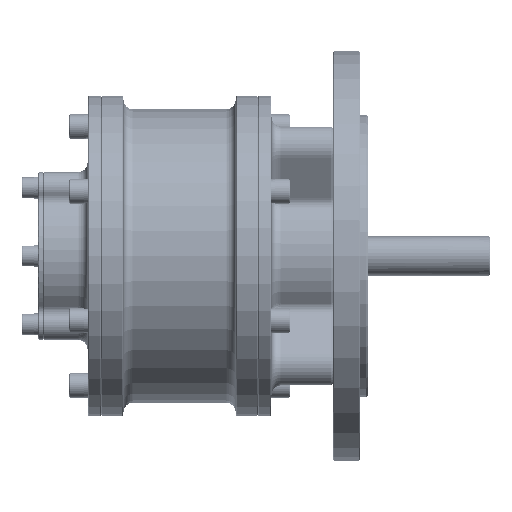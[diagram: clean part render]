
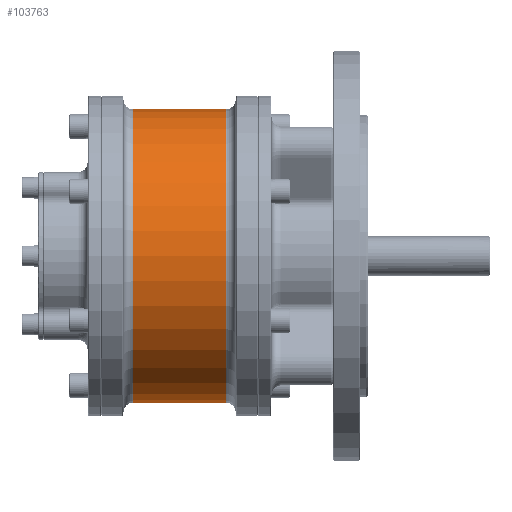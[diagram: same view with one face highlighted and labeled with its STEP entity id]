
A CAD part, front view. The second image highlights one B-rep face of the part: STEP entity #103763.
In plain terms, the highlighted cylindrical face has radius 59.5 mm (diameter 119 mm), a partial arc.
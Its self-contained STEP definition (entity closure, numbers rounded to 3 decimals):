
#3931 = CARTESIAN_POINT ( 'NONE',  ( -18.75, 0., 59.5 ) ) ;
#8068 = LINE ( 'NONE', #223098, #58705 ) ;
#23891 = EDGE_CURVE ( 'NONE', #58877, #198735, #116200, .T. ) ;
#30473 = CARTESIAN_POINT ( 'NONE',  ( -22.75, 0., 0. ) ) ;
#47864 = CARTESIAN_POINT ( 'NONE',  ( 18.75, 0., 59.5 ) ) ;
#49163 = CYLINDRICAL_SURFACE ( 'NONE', #212165, 59.5 ) ;
#58705 = VECTOR ( 'NONE', #121442, 1000. ) ;
#58877 = VERTEX_POINT ( 'NONE', #122154 ) ;
#68261 = ORIENTED_EDGE ( 'NONE', *, *, #219509, .T. ) ;
#68297 = CIRCLE ( 'NONE', #81658, 59.5 ) ;
#76199 = ORIENTED_EDGE ( 'NONE', *, *, #23891, .T. ) ;
#77864 = DIRECTION ( 'NONE',  ( 0., 0., -1. ) ) ;
#81658 = AXIS2_PLACEMENT_3D ( 'NONE', #177763, #260933, #77864 ) ;
#84174 = CARTESIAN_POINT ( 'NONE',  ( -18.75, 0., -59.5 ) ) ;
#95028 = DIRECTION ( 'NONE',  ( 0., 0., -1. ) ) ;
#103763 = ADVANCED_FACE ( 'NONE', ( #157007 ), #49163, .T. ) ;
#109458 = EDGE_CURVE ( 'NONE', #117525, #198735, #155521, .T. ) ;
#112242 = ORIENTED_EDGE ( 'NONE', *, *, #109458, .F. ) ;
#116200 = CIRCLE ( 'NONE', #144677, 59.5 ) ;
#117525 = VERTEX_POINT ( 'NONE', #3931 ) ;
#121442 = DIRECTION ( 'NONE',  ( 1., 0., 0. ) ) ;
#122154 = CARTESIAN_POINT ( 'NONE',  ( 18.75, 0., -59.5 ) ) ;
#125221 = CARTESIAN_POINT ( 'NONE',  ( 18.75, 0., 0. ) ) ;
#126092 = DIRECTION ( 'NONE',  ( 0., 0., -1. ) ) ;
#134136 = EDGE_LOOP ( 'NONE', ( #112242, #68261, #244762, #76199 ) ) ;
#144677 = AXIS2_PLACEMENT_3D ( 'NONE', #125221, #226912, #126092 ) ;
#145105 = VERTEX_POINT ( 'NONE', #84174 ) ;
#155521 = LINE ( 'NONE', #158110, #247458 ) ;
#157007 = FACE_OUTER_BOUND ( 'NONE', #134136, .T. ) ;
#158110 = CARTESIAN_POINT ( 'NONE',  ( -22.75, 0., 59.5 ) ) ;
#177763 = CARTESIAN_POINT ( 'NONE',  ( -18.75, 0., 0. ) ) ;
#197026 = DIRECTION ( 'NONE',  ( 1., 0., 0. ) ) ;
#198735 = VERTEX_POINT ( 'NONE', #47864 ) ;
#212165 = AXIS2_PLACEMENT_3D ( 'NONE', #30473, #253397, #95028 ) ;
#219509 = EDGE_CURVE ( 'NONE', #117525, #145105, #68297, .T. ) ;
#223098 = CARTESIAN_POINT ( 'NONE',  ( -22.75, 0., -59.5 ) ) ;
#226912 = DIRECTION ( 'NONE',  ( -1., 0., 0. ) ) ;
#229543 = EDGE_CURVE ( 'NONE', #145105, #58877, #8068, .T. ) ;
#244762 = ORIENTED_EDGE ( 'NONE', *, *, #229543, .T. ) ;
#247458 = VECTOR ( 'NONE', #197026, 1000. ) ;
#253397 = DIRECTION ( 'NONE',  ( 1., 0., 0. ) ) ;
#260933 = DIRECTION ( 'NONE',  ( 1., 0., 0. ) ) ;
